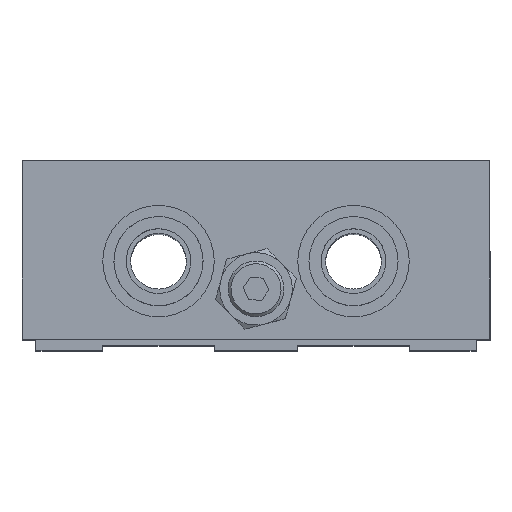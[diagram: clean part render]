
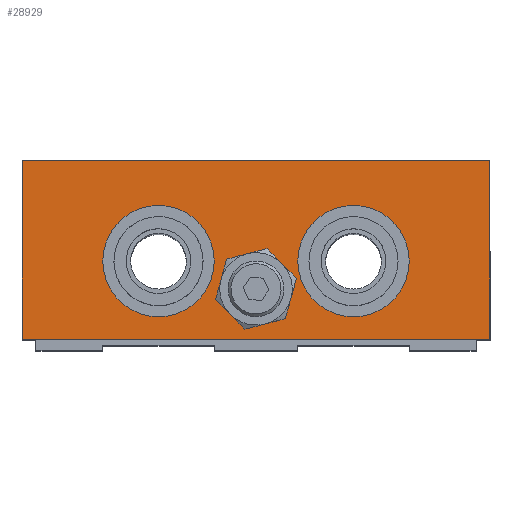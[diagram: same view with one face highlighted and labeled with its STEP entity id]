
A CAD part, top view. The second image highlights one B-rep face of the part: STEP entity #28929.
In plain terms, the highlighted planar face has unit normal (0, 0, 1) as drawn and (0, 1, 0) by its records, which use the part's own axes.
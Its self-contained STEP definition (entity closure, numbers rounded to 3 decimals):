
#5583 = CIRCLE ( 'NONE', #5642, 10. ) ;
#5584 = CARTESIAN_POINT ( 'NONE',  ( 17.5, 7.5, 8. ) ) ;
#5606 = CARTESIAN_POINT ( 'NONE',  ( -17.5, 7.5, 28. ) ) ;
#5613 = CARTESIAN_POINT ( 'NONE',  ( -17.5, 7.5, 8. ) ) ;
#5638 = CARTESIAN_POINT ( 'NONE',  ( 17.5, 7.5, 28. ) ) ;
#5639 = DIRECTION ( 'NONE',  ( 0., 0., 1. ) ) ;
#5640 = DIRECTION ( 'NONE',  ( 0., 1., 0. ) ) ;
#5641 = CARTESIAN_POINT ( 'NONE',  ( 17.5, 7.5, 18. ) ) ;
#5642 = AXIS2_PLACEMENT_3D ( 'NONE', #5641, #5640, #5639 ) ;
#5671 = DIRECTION ( 'NONE',  ( 0., 0., 1. ) ) ;
#5672 = DIRECTION ( 'NONE',  ( 0., 1., 0. ) ) ;
#5673 = CARTESIAN_POINT ( 'NONE',  ( -17.5, 7.5, 18. ) ) ;
#5674 = AXIS2_PLACEMENT_3D ( 'NONE', #5673, #5672, #5671 ) ;
#5675 = CIRCLE ( 'NONE', #5674, 10. ) ;
#9744 = DIRECTION ( 'NONE',  ( -1., 0., 0. ) ) ;
#9745 = VECTOR ( 'NONE', #9744, 1000. ) ;
#9746 = CARTESIAN_POINT ( 'NONE',  ( -42., 7.5, 32. ) ) ;
#9747 = LINE ( 'NONE', #9746, #9745 ) ;
#9748 = CARTESIAN_POINT ( 'NONE',  ( 42., 7.5, 32. ) ) ;
#9858 = CARTESIAN_POINT ( 'NONE',  ( 42., 7.5, 0. ) ) ;
#9859 = DIRECTION ( 'NONE',  ( -1., 0., 0. ) ) ;
#9860 = VECTOR ( 'NONE', #9859, 1000. ) ;
#9861 = CARTESIAN_POINT ( 'NONE',  ( -42., 7.5, 0. ) ) ;
#9866 = LINE ( 'NONE', #9861, #9860 ) ;
#9867 = CARTESIAN_POINT ( 'NONE',  ( 42., 7.5, 32. ) ) ;
#9868 = LINE ( 'NONE', #9867, #9934 ) ;
#9869 = DIRECTION ( 'NONE',  ( 0.964, 0., 0.265 ) ) ;
#9870 = DIRECTION ( 'NONE',  ( 0., -1., 0. ) ) ;
#9871 = CARTESIAN_POINT ( 'NONE',  ( 0., 7.5, 23. ) ) ;
#9872 = AXIS2_PLACEMENT_3D ( 'NONE', #9871, #9870, #9869 ) ;
#9873 = CIRCLE ( 'NONE', #9872, 6.5 ) ;
#9874 = CARTESIAN_POINT ( 'NONE',  ( -6.268, 7.5, 21.28 ) ) ;
#9875 = DIRECTION ( 'NONE',  ( 0.964, 0., 0.265 ) ) ;
#9876 = DIRECTION ( 'NONE',  ( 0., -1., 0. ) ) ;
#9877 = CARTESIAN_POINT ( 'NONE',  ( 0., 7.5, 23. ) ) ;
#9878 = AXIS2_PLACEMENT_3D ( 'NONE', #9877, #9876, #9875 ) ;
#9879 = CIRCLE ( 'NONE', #9878, 6.5 ) ;
#9886 = CARTESIAN_POINT ( 'NONE',  ( -42., 7.5, 32. ) ) ;
#9888 = CARTESIAN_POINT ( 'NONE',  ( -42., 7.5, 0. ) ) ;
#9917 = CARTESIAN_POINT ( 'NONE',  ( 4.624, 7.5, 18.431 ) ) ;
#9918 = CARTESIAN_POINT ( 'NONE',  ( -1.645, 7.5, 16.712 ) ) ;
#9919 = DIRECTION ( 'NONE',  ( 0.964, 0., 0.265 ) ) ;
#9920 = DIRECTION ( 'NONE',  ( 0., -1., 0. ) ) ;
#9921 = CARTESIAN_POINT ( 'NONE',  ( 0., 7.5, 23. ) ) ;
#9922 = AXIS2_PLACEMENT_3D ( 'NONE', #9921, #9920, #9919 ) ;
#9923 = CIRCLE ( 'NONE', #9922, 6.5 ) ;
#9924 = DIRECTION ( 'NONE',  ( 0., 0., -1. ) ) ;
#9925 = DIRECTION ( 'NONE',  ( 0., -1., 0. ) ) ;
#9926 = CARTESIAN_POINT ( 'NONE',  ( -42., 7.5, 32. ) ) ;
#9927 = AXIS2_PLACEMENT_3D ( 'NONE', #9926, #9925, #9924 ) ;
#9928 = PLANE ( 'NONE',  #9927 ) ;
#9929 = FACE_OUTER_BOUND ( 'NONE', #28981, .T. ) ;
#9930 = FACE_BOUND ( 'NONE', #28977, .T. ) ;
#9931 = FACE_BOUND ( 'NONE', #28920, .T. ) ;
#9932 = FACE_BOUND ( 'NONE', #28930, .T. ) ;
#9933 = DIRECTION ( 'NONE',  ( 0., 0., -1. ) ) ;
#9934 = VECTOR ( 'NONE', #9933, 1000. ) ;
#9960 = DIRECTION ( 'NONE',  ( 0., 0., -1. ) ) ;
#9961 = VECTOR ( 'NONE', #9960, 1000. ) ;
#9962 = CARTESIAN_POINT ( 'NONE',  ( -42., 7.5, 32. ) ) ;
#9963 = LINE ( 'NONE', #9962, #9961 ) ;
#9969 = CARTESIAN_POINT ( 'NONE',  ( -17.5, 7.5, 18. ) ) ;
#9970 = AXIS2_PLACEMENT_3D ( 'NONE', #9969, #10030, #10029 ) ;
#9971 = CIRCLE ( 'NONE', #9970, 10. ) ;
#10006 = CARTESIAN_POINT ( 'NONE',  ( -4.624, 7.5, 27.569 ) ) ;
#10007 = DIRECTION ( 'NONE',  ( 0.964, 0., 0.265 ) ) ;
#10008 = DIRECTION ( 'NONE',  ( 0., -1., 0. ) ) ;
#10009 = CARTESIAN_POINT ( 'NONE',  ( 0., 7.5, 23. ) ) ;
#10010 = AXIS2_PLACEMENT_3D ( 'NONE', #10009, #10008, #10007 ) ;
#10011 = CIRCLE ( 'NONE', #10010, 6.5 ) ;
#10012 = CARTESIAN_POINT ( 'NONE',  ( 1.645, 7.5, 29.288 ) ) ;
#10013 = DIRECTION ( 'NONE',  ( 0.964, 0., 0.265 ) ) ;
#10014 = DIRECTION ( 'NONE',  ( 0., -1., 0. ) ) ;
#10015 = CARTESIAN_POINT ( 'NONE',  ( 0., 7.5, 23. ) ) ;
#10016 = AXIS2_PLACEMENT_3D ( 'NONE', #10015, #10014, #10013 ) ;
#10017 = CIRCLE ( 'NONE', #10016, 6.5 ) ;
#10018 = CARTESIAN_POINT ( 'NONE',  ( 6.268, 7.5, 24.72 ) ) ;
#10019 = DIRECTION ( 'NONE',  ( 0.964, 0., 0.265 ) ) ;
#10020 = DIRECTION ( 'NONE',  ( 0., -1., 0. ) ) ;
#10021 = CARTESIAN_POINT ( 'NONE',  ( 0., 7.5, 23. ) ) ;
#10022 = AXIS2_PLACEMENT_3D ( 'NONE', #10021, #10020, #10019 ) ;
#10023 = CIRCLE ( 'NONE', #10022, 6.5 ) ;
#10024 = DIRECTION ( 'NONE',  ( 0., 0., 1. ) ) ;
#10025 = DIRECTION ( 'NONE',  ( 0., 1., 0. ) ) ;
#10026 = CARTESIAN_POINT ( 'NONE',  ( 17.5, 7.5, 18. ) ) ;
#10027 = AXIS2_PLACEMENT_3D ( 'NONE', #10026, #10025, #10024 ) ;
#10028 = CIRCLE ( 'NONE', #10027, 10. ) ;
#10029 = DIRECTION ( 'NONE',  ( 0., 0., 1. ) ) ;
#10030 = DIRECTION ( 'NONE',  ( 0., 1., 0. ) ) ;
#26753 = VERTEX_POINT ( 'NONE', #5606 ) ;
#26764 = VERTEX_POINT ( 'NONE', #5584 ) ;
#26766 = EDGE_CURVE ( 'NONE', #26764, #26767, #5583, .T. ) ;
#26767 = VERTEX_POINT ( 'NONE', #5638 ) ;
#26780 = VERTEX_POINT ( 'NONE', #5613 ) ;
#26782 = EDGE_CURVE ( 'NONE', #26780, #26753, #5675, .T. ) ;
#28836 = VERTEX_POINT ( 'NONE', #9748 ) ;
#28838 = EDGE_CURVE ( 'NONE', #28836, #28910, #9747, .T. ) ;
#28883 = EDGE_CURVE ( 'NONE', #28884, #28908, #9866, .T. ) ;
#28884 = VERTEX_POINT ( 'NONE', #9858 ) ;
#28908 = VERTEX_POINT ( 'NONE', #9888 ) ;
#28910 = VERTEX_POINT ( 'NONE', #9886 ) ;
#28916 = EDGE_CURVE ( 'NONE', #28993, #28917, #9879, .T. ) ;
#28917 = VERTEX_POINT ( 'NONE', #9874 ) ;
#28918 = ORIENTED_EDGE ( 'NONE', *, *, #28919, .T. ) ;
#28919 = EDGE_CURVE ( 'NONE', #28917, #28933, #9873, .T. ) ;
#28920 = EDGE_LOOP ( 'NONE', ( #28974, #28976 ) ) ;
#28926 = EDGE_CURVE ( 'NONE', #28836, #28884, #9868, .T. ) ;
#28929 = ADVANCED_FACE ( 'NONE', ( #9932, #9931, #9930, #9929 ), #9928, .F. ) ;
#28930 = EDGE_LOOP ( 'NONE', ( #28931, #28985, #28988, #28991, #28994, #28918 ) ) ;
#28931 = ORIENTED_EDGE ( 'NONE', *, *, #28932, .T. ) ;
#28932 = EDGE_CURVE ( 'NONE', #28933, #28934, #9923, .T. ) ;
#28933 = VERTEX_POINT ( 'NONE', #9918 ) ;
#28934 = VERTEX_POINT ( 'NONE', #9917 ) ;
#28949 = EDGE_CURVE ( 'NONE', #28910, #28908, #9963, .T. ) ;
#28960 = ORIENTED_EDGE ( 'NONE', *, *, #28926, .T. ) ;
#28974 = ORIENTED_EDGE ( 'NONE', *, *, #28975, .F. ) ;
#28975 = EDGE_CURVE ( 'NONE', #26753, #26780, #9971, .T. ) ;
#28976 = ORIENTED_EDGE ( 'NONE', *, *, #26782, .F. ) ;
#28977 = EDGE_LOOP ( 'NONE', ( #28978, #28980 ) ) ;
#28978 = ORIENTED_EDGE ( 'NONE', *, *, #28979, .F. ) ;
#28979 = EDGE_CURVE ( 'NONE', #26767, #26764, #10028, .T. ) ;
#28980 = ORIENTED_EDGE ( 'NONE', *, *, #26766, .F. ) ;
#28981 = EDGE_LOOP ( 'NONE', ( #28982, #28983, #28984, #28960 ) ) ;
#28982 = ORIENTED_EDGE ( 'NONE', *, *, #28883, .T. ) ;
#28983 = ORIENTED_EDGE ( 'NONE', *, *, #28949, .F. ) ;
#28984 = ORIENTED_EDGE ( 'NONE', *, *, #28838, .F. ) ;
#28985 = ORIENTED_EDGE ( 'NONE', *, *, #28986, .T. ) ;
#28986 = EDGE_CURVE ( 'NONE', #28934, #28987, #10023, .T. ) ;
#28987 = VERTEX_POINT ( 'NONE', #10018 ) ;
#28988 = ORIENTED_EDGE ( 'NONE', *, *, #28989, .T. ) ;
#28989 = EDGE_CURVE ( 'NONE', #28987, #28990, #10017, .T. ) ;
#28990 = VERTEX_POINT ( 'NONE', #10012 ) ;
#28991 = ORIENTED_EDGE ( 'NONE', *, *, #28992, .T. ) ;
#28992 = EDGE_CURVE ( 'NONE', #28990, #28993, #10011, .T. ) ;
#28993 = VERTEX_POINT ( 'NONE', #10006 ) ;
#28994 = ORIENTED_EDGE ( 'NONE', *, *, #28916, .T. ) ;
